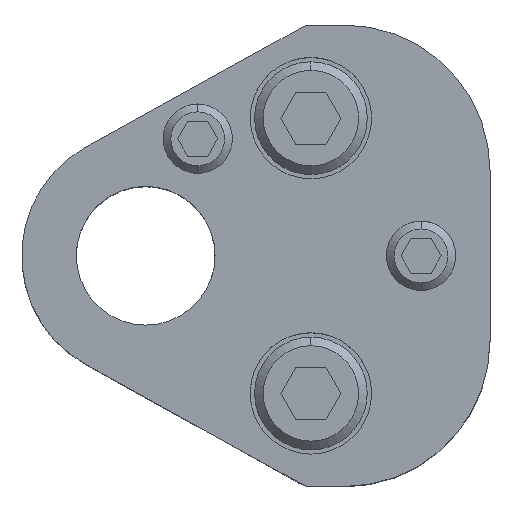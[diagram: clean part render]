
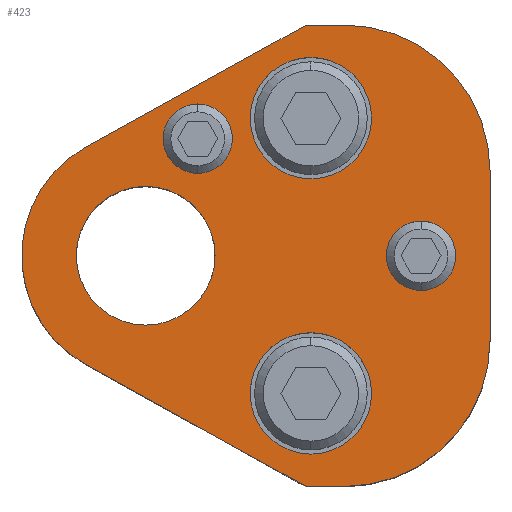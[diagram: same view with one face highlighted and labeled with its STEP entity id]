
A CAD part, top view. The second image highlights one B-rep face of the part: STEP entity #423.
In plain terms, the highlighted planar face has unit normal (0, 0, 1).
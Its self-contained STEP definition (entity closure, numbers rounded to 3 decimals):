
#198=FACE_BOUND('',#745,.T.);
#199=FACE_BOUND('',#746,.T.);
#200=FACE_BOUND('',#747,.T.);
#201=FACE_BOUND('',#748,.T.);
#202=FACE_BOUND('',#749,.T.);
#203=FACE_BOUND('',#750,.T.);
#273=CIRCLE('',#2385,16.8);
#275=CIRCLE('',#2389,16.8);
#277=CIRCLE('',#2394,4.);
#279=CIRCLE('',#2397,4.);
#281=CIRCLE('',#2400,4.);
#283=CIRCLE('',#2403,4.);
#293=CIRCLE('',#2418,14.3);
#294=CIRCLE('',#2419,7.);
#295=CIRCLE('',#2420,7.);
#296=CIRCLE('',#2421,7.);
#297=CIRCLE('',#2422,7.);
#298=CIRCLE('',#2423,8.);
#299=CIRCLE('',#2424,8.);
#423=ADVANCED_FACE('',(#198,#199,#200,#201,#202,#203),#519,.T.);
#519=PLANE('',#2425);
#745=EDGE_LOOP('',(#1122,#1123,#1124,#1125,#1126,#1127,#1128,#1129));
#746=EDGE_LOOP('',(#1130,#1131));
#747=EDGE_LOOP('',(#1132,#1133));
#748=EDGE_LOOP('',(#1134,#1135));
#749=EDGE_LOOP('',(#1136,#1137));
#750=EDGE_LOOP('',(#1138,#1139));
#1122=ORIENTED_EDGE('',*,*,#1794,.T.);
#1123=ORIENTED_EDGE('',*,*,#1752,.T.);
#1124=ORIENTED_EDGE('',*,*,#1756,.T.);
#1125=ORIENTED_EDGE('',*,*,#1759,.T.);
#1126=ORIENTED_EDGE('',*,*,#1762,.T.);
#1127=ORIENTED_EDGE('',*,*,#1765,.T.);
#1128=ORIENTED_EDGE('',*,*,#1768,.T.);
#1129=ORIENTED_EDGE('',*,*,#1795,.T.);
#1130=ORIENTED_EDGE('',*,*,#1796,.F.);
#1131=ORIENTED_EDGE('',*,*,#1797,.F.);
#1132=ORIENTED_EDGE('',*,*,#1798,.F.);
#1133=ORIENTED_EDGE('',*,*,#1799,.F.);
#1134=ORIENTED_EDGE('',*,*,#1780,.F.);
#1135=ORIENTED_EDGE('',*,*,#1776,.F.);
#1136=ORIENTED_EDGE('',*,*,#1774,.F.);
#1137=ORIENTED_EDGE('',*,*,#1770,.F.);
#1138=ORIENTED_EDGE('',*,*,#1800,.T.);
#1139=ORIENTED_EDGE('',*,*,#1801,.T.);
#1513=VERTEX_POINT('',#3544);
#1514=VERTEX_POINT('',#3546);
#1517=VERTEX_POINT('',#3553);
#1519=VERTEX_POINT('',#3559);
#1521=VERTEX_POINT('',#3565);
#1523=VERTEX_POINT('',#3571);
#1525=VERTEX_POINT('',#3577);
#1526=VERTEX_POINT('',#3582);
#1527=VERTEX_POINT('',#3583);
#1530=VERTEX_POINT('',#3594);
#1531=VERTEX_POINT('',#3595);
#1542=VERTEX_POINT('',#3630);
#1543=VERTEX_POINT('',#3633);
#1544=VERTEX_POINT('',#3634);
#1545=VERTEX_POINT('',#3637);
#1546=VERTEX_POINT('',#3638);
#1547=VERTEX_POINT('',#3641);
#1548=VERTEX_POINT('',#3642);
#1752=EDGE_CURVE('',#1514,#1513,#2006,.T.);
#1756=EDGE_CURVE('',#1513,#1517,#273,.T.);
#1759=EDGE_CURVE('',#1517,#1519,#2011,.T.);
#1762=EDGE_CURVE('',#1519,#1521,#275,.T.);
#1765=EDGE_CURVE('',#1521,#1523,#2015,.T.);
#1768=EDGE_CURVE('',#1523,#1525,#2018,.T.);
#1770=EDGE_CURVE('',#1526,#1527,#277,.T.);
#1774=EDGE_CURVE('',#1527,#1526,#279,.T.);
#1776=EDGE_CURVE('',#1530,#1531,#281,.T.);
#1780=EDGE_CURVE('',#1531,#1530,#283,.T.);
#1794=EDGE_CURVE('',#1542,#1514,#2028,.T.);
#1795=EDGE_CURVE('',#1525,#1542,#293,.T.);
#1796=EDGE_CURVE('',#1543,#1544,#294,.T.);
#1797=EDGE_CURVE('',#1544,#1543,#295,.T.);
#1798=EDGE_CURVE('',#1545,#1546,#296,.T.);
#1799=EDGE_CURVE('',#1546,#1545,#297,.T.);
#1800=EDGE_CURVE('',#1547,#1548,#298,.T.);
#1801=EDGE_CURVE('',#1548,#1547,#299,.T.);
#2006=LINE('',#3545,#2179);
#2011=LINE('',#3560,#2184);
#2015=LINE('',#3572,#2188);
#2018=LINE('',#3578,#2191);
#2028=LINE('',#3629,#2201);
#2179=VECTOR('',#2815,1.);
#2184=VECTOR('',#2828,1.);
#2188=VECTOR('',#2840,1.);
#2191=VECTOR('',#2845,1.);
#2201=VECTOR('',#2905,1.);
#2385=AXIS2_PLACEMENT_3D('',#3554,#2821,#2822);
#2389=AXIS2_PLACEMENT_3D('',#3566,#2833,#2834);
#2394=AXIS2_PLACEMENT_3D('',#3581,#2849,#2850);
#2397=AXIS2_PLACEMENT_3D('',#3590,#2857,#2858);
#2400=AXIS2_PLACEMENT_3D('',#3593,#2863,#2864);
#2403=AXIS2_PLACEMENT_3D('',#3602,#2871,#2872);
#2418=AXIS2_PLACEMENT_3D('',#3631,#2906,#2907);
#2419=AXIS2_PLACEMENT_3D('',#3632,#2908,#2909);
#2420=AXIS2_PLACEMENT_3D('',#3635,#2910,#2911);
#2421=AXIS2_PLACEMENT_3D('',#3636,#2912,#2913);
#2422=AXIS2_PLACEMENT_3D('',#3639,#2914,#2915);
#2423=AXIS2_PLACEMENT_3D('',#3640,#2916,#2917);
#2424=AXIS2_PLACEMENT_3D('',#3643,#2918,#2919);
#2425=AXIS2_PLACEMENT_3D('',#3644,#2920,#2921);
#2815=DIRECTION('',(1.,0.,0.));
#2821=DIRECTION('',(0.,0.,1.));
#2822=DIRECTION('',(-0.707,0.707,0.));
#2828=DIRECTION('',(0.,1.,0.));
#2833=DIRECTION('',(0.,0.,1.));
#2834=DIRECTION('',(-0.707,-0.707,0.));
#2840=DIRECTION('',(-1.,0.,0.));
#2845=DIRECTION('',(-0.875,-0.485,0.));
#2849=DIRECTION('',(0.,0.,1.));
#2850=DIRECTION('',(-1.,0.,0.));
#2857=DIRECTION('',(0.,0.,1.));
#2858=DIRECTION('',(1.,0.,0.));
#2863=DIRECTION('',(0.,0.,1.));
#2864=DIRECTION('',(-1.,0.,0.));
#2871=DIRECTION('',(0.,0.,1.));
#2872=DIRECTION('',(1.,0.,0.));
#2905=DIRECTION('',(0.875,-0.485,0.));
#2906=DIRECTION('',(0.,0.,1.));
#2907=DIRECTION('',(1.,0.,0.));
#2908=DIRECTION('',(0.,0.,1.));
#2909=DIRECTION('',(1.,0.,0.));
#2910=DIRECTION('',(0.,0.,1.));
#2911=DIRECTION('',(-1.,0.,0.));
#2912=DIRECTION('',(0.,0.,1.));
#2913=DIRECTION('',(1.,0.,0.));
#2914=DIRECTION('',(0.,0.,1.));
#2915=DIRECTION('',(-1.,0.,0.));
#2916=DIRECTION('',(0.,0.,-1.));
#2917=DIRECTION('',(-1.,0.,0.));
#2918=DIRECTION('',(0.,0.,-1.));
#2919=DIRECTION('',(1.,0.,0.));
#2920=DIRECTION('',(0.,0.,1.));
#2921=DIRECTION('',(-0.875,0.485,0.));
#3544=CARTESIAN_POINT('',(22.9,-26.6,32.));
#3545=CARTESIAN_POINT('',(18.492,-26.6,32.));
#3546=CARTESIAN_POINT('',(18.492,-26.6,32.));
#3553=CARTESIAN_POINT('',(39.7,-9.8,32.));
#3554=CARTESIAN_POINT('',(22.9,-9.8,32.));
#3559=CARTESIAN_POINT('',(39.7,9.8,32.));
#3560=CARTESIAN_POINT('',(39.7,9.8,32.));
#3565=CARTESIAN_POINT('',(22.9,26.6,32.));
#3566=CARTESIAN_POINT('',(22.9,9.8,32.));
#3571=CARTESIAN_POINT('',(18.492,26.6,32.));
#3572=CARTESIAN_POINT('',(18.492,26.6,32.));
#3577=CARTESIAN_POINT('',(-6.933,12.507,32.));
#3578=CARTESIAN_POINT('',(18.492,26.6,32.));
#3581=CARTESIAN_POINT('',(6.,13.5,32.));
#3582=CARTESIAN_POINT('',(6.,9.5,32.));
#3583=CARTESIAN_POINT('',(6.,17.5,32.));
#3590=CARTESIAN_POINT('',(6.,13.5,32.));
#3593=CARTESIAN_POINT('',(31.75,0.,32.));
#3594=CARTESIAN_POINT('',(31.75,-4.,32.));
#3595=CARTESIAN_POINT('',(31.75,4.,32.));
#3602=CARTESIAN_POINT('',(31.75,0.,32.));
#3629=CARTESIAN_POINT('',(18.492,-26.6,32.));
#3630=CARTESIAN_POINT('',(-6.933,-12.507,32.));
#3631=CARTESIAN_POINT('',(0.,0.,32.));
#3632=CARTESIAN_POINT('',(19.05,15.87,32.));
#3633=CARTESIAN_POINT('',(19.05,22.87,32.));
#3634=CARTESIAN_POINT('',(19.05,8.87,32.));
#3635=CARTESIAN_POINT('',(19.05,15.87,32.));
#3636=CARTESIAN_POINT('',(19.05,-15.87,32.));
#3637=CARTESIAN_POINT('',(19.05,-8.87,32.));
#3638=CARTESIAN_POINT('',(19.05,-22.87,32.));
#3639=CARTESIAN_POINT('',(19.05,-15.87,32.));
#3640=CARTESIAN_POINT('',(0.,0.,32.));
#3641=CARTESIAN_POINT('',(0.,8.,32.));
#3642=CARTESIAN_POINT('',(0.,-8.,32.));
#3643=CARTESIAN_POINT('',(0.,0.,32.));
#3644=CARTESIAN_POINT('',(-6.933,-12.507,32.));
